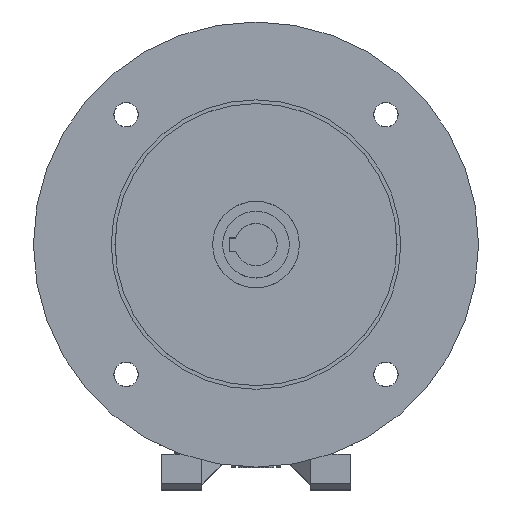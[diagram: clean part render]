
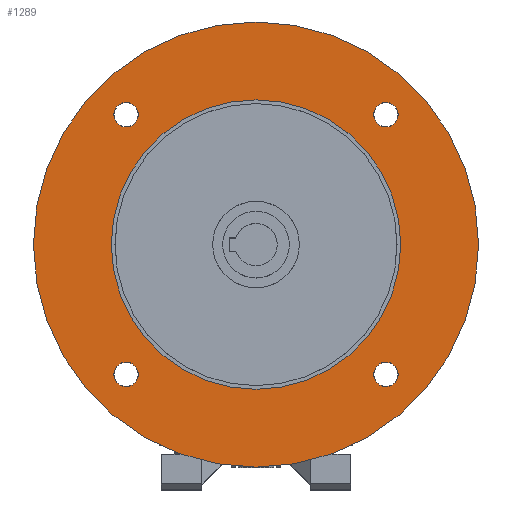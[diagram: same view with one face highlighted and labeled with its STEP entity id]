
A CAD part, top view. The second image highlights one B-rep face of the part: STEP entity #1289.
In plain terms, the highlighted planar face has unit normal (0, 0, 1).
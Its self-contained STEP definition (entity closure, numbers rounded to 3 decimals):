
#1289 = ADVANCED_FACE( 'NONE', ( #3072, #3073, #3074, #3075, #3076, #3077 ), #3078, .T. );
#3072 = FACE_OUTER_BOUND( '', #5525, .T. );
#3073 = FACE_BOUND( '', #5526, .T. );
#3074 = FACE_BOUND( '', #5527, .T. );
#3075 = FACE_BOUND( '', #5528, .T. );
#3076 = FACE_BOUND( '', #5529, .T. );
#3077 = FACE_BOUND( '', #5530, .T. );
#3078 = PLANE( '', #5531 );
#5525 = EDGE_LOOP( '', ( #9812 ) );
#5526 = EDGE_LOOP( '', ( #9813 ) );
#5527 = EDGE_LOOP( '', ( #9814 ) );
#5528 = EDGE_LOOP( '', ( #9815 ) );
#5529 = EDGE_LOOP( '', ( #9816 ) );
#5530 = EDGE_LOOP( '', ( #9817 ) );
#5531 = AXIS2_PLACEMENT_3D( '', #9818, #9819, #9820 );
#9812 = ORIENTED_EDGE( '', *, *, #15052, .T. );
#9813 = ORIENTED_EDGE( '', *, *, #14999, .T. );
#9814 = ORIENTED_EDGE( '', *, *, #15533, .T. );
#9815 = ORIENTED_EDGE( '', *, *, #15534, .T. );
#9816 = ORIENTED_EDGE( '', *, *, #14659, .T. );
#9817 = ORIENTED_EDGE( '', *, *, #15375, .T. );
#9818 = CARTESIAN_POINT( '', ( 0., -105., 16. ) );
#9819 = DIRECTION( '', ( 0., 0., 1. ) );
#9820 = DIRECTION( '', ( -1., 0., 0. ) );
#14659 = EDGE_CURVE( 'NONE', #17861, #17861, #17862, .F. );
#14999 = EDGE_CURVE( 'NONE', #18422, #18422, #18423, .F. );
#15052 = EDGE_CURVE( 'NONE', #18504, #18504, #18505, .T. );
#15375 = EDGE_CURVE( 'NONE', #19004, #19004, #19005, .F. );
#15533 = EDGE_CURVE( 'NONE', #19252, #19252, #19253, .F. );
#15534 = EDGE_CURVE( 'NONE', #19254, #19254, #19255, .F. );
#17861 = VERTEX_POINT( '', #22988 );
#17862 = CIRCLE( '', #22989, 5.496 );
#18422 = VERTEX_POINT( '', #23955 );
#18423 = CIRCLE( '', #23956, 5.496 );
#18504 = VERTEX_POINT( '', #24067 );
#18505 = CIRCLE( '', #24068, 99.974 );
#19004 = VERTEX_POINT( '', #25042 );
#19005 = CIRCLE( '', #25043, 65. );
#19252 = VERTEX_POINT( '', #25822 );
#19253 = CIRCLE( '', #25823, 5.496 );
#19254 = VERTEX_POINT( '', #25824 );
#19255 = CIRCLE( '', #25825, 5.496 );
#22988 = CARTESIAN_POINT( '', ( 52.84, 58.336, 16. ) );
#22989 = AXIS2_PLACEMENT_3D( '', #29316, #29317, #29318 );
#23955 = CARTESIAN_POINT( '', ( 52.84, -58.336, 16. ) );
#23956 = AXIS2_PLACEMENT_3D( '', #29662, #29663, #29664 );
#24067 = CARTESIAN_POINT( '', ( -99.974, 0., 16. ) );
#24068 = AXIS2_PLACEMENT_3D( '', #29735, #29736, #29737 );
#25042 = CARTESIAN_POINT( '', ( -65., 0., 16. ) );
#25043 = AXIS2_PLACEMENT_3D( '', #30081, #30082, #30083 );
#25822 = CARTESIAN_POINT( '', ( -63.832, 58.336, 16. ) );
#25823 = AXIS2_PLACEMENT_3D( '', #30242, #30243, #30244 );
#25824 = CARTESIAN_POINT( '', ( -63.832, -58.336, 16. ) );
#25825 = AXIS2_PLACEMENT_3D( '', #30245, #30246, #30247 );
#29316 = CARTESIAN_POINT( '', ( 58.336, 58.336, 16. ) );
#29317 = DIRECTION( '', ( 0., 0., 1. ) );
#29318 = DIRECTION( '', ( -1., 0., 0. ) );
#29662 = CARTESIAN_POINT( '', ( 58.336, -58.336, 16. ) );
#29663 = DIRECTION( '', ( 0., 0., 1. ) );
#29664 = DIRECTION( '', ( -1., 0., 0. ) );
#29735 = CARTESIAN_POINT( '', ( 0., 0., 16. ) );
#29736 = DIRECTION( '', ( 0., 0., 1. ) );
#29737 = DIRECTION( '', ( -1., 0., 0. ) );
#30081 = CARTESIAN_POINT( '', ( 0., 0., 16. ) );
#30082 = DIRECTION( '', ( 0., 0., 1. ) );
#30083 = DIRECTION( '', ( -1., 0., 0. ) );
#30242 = CARTESIAN_POINT( '', ( -58.336, 58.336, 16. ) );
#30243 = DIRECTION( '', ( 0., 0., 1. ) );
#30244 = DIRECTION( '', ( -1., 0., 0. ) );
#30245 = CARTESIAN_POINT( '', ( -58.336, -58.336, 16. ) );
#30246 = DIRECTION( '', ( 0., 0., 1. ) );
#30247 = DIRECTION( '', ( -1., 0., 0. ) );
